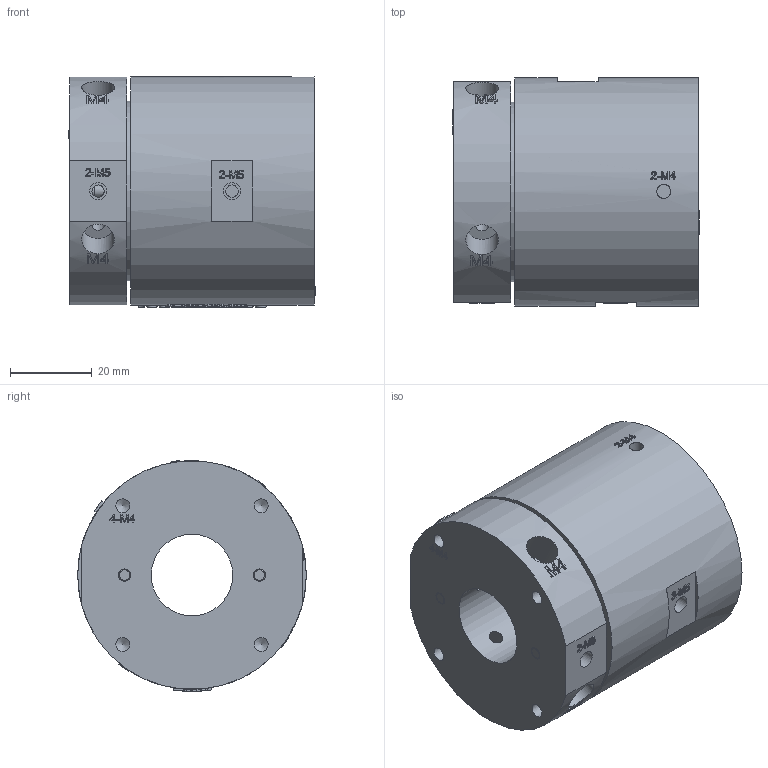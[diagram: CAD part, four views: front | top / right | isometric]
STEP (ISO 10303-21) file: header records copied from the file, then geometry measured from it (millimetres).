
FILE_DESCRIPTION(/* description */ (''),/* implementation_level */ '2;1');
FILE_NAME(/* name */ 'HQ02005-D20.stp',/* time_stamp */ '2025-09-05T11:04:56+08:00',/* author */ (''),/* organization */ (''),/* preprocessor_version */ 'ST-DEVELOPER v16.7',/* originating_system */ 'SIEMENS PLM Software NX 12.0',/* authorisation */ '');
FILE_SCHEMA (('AUTOMOTIVE_DESIGN { 1 0 10303 214 3 1 1 1 }'));
Length unit declared in the file: millimetre
Products named in the file (1): Admi30D0F0663c6h
Bounding box: 60.4 x 56 x 56.54 mm (x, y, z)
Volume: 121091.8 mm3; surface area: 25237.5 mm2
Topology: 1 solids, 1 shells, 845 faces, 2268 edges, 1516 vertices
Faces by surface type: plane 485, extrusion 225, cylinder 68, bspline 54, cone 13
Full cylindrical faces by diameter (mm): 2 x2, 2.5 x6, 2.95 x2, 3 x6, 3.4 x10, 4.2 x4, 8 x4, 20 x1, 33 x1, 35 x1, 44 x1, 47 x1, 56 x1
Entity records: 38314 total; most frequent: CARTESIAN_POINT 20063, ORIENTED_EDGE 4326, DIRECTION 2502, EDGE_CURVE 2163, B_SPLINE_CURVE_WITH_KNOTS 1573, VERTEX_POINT 1487, EDGE_LOOP 1016, AXIS2_PLACEMENT_3D 895
